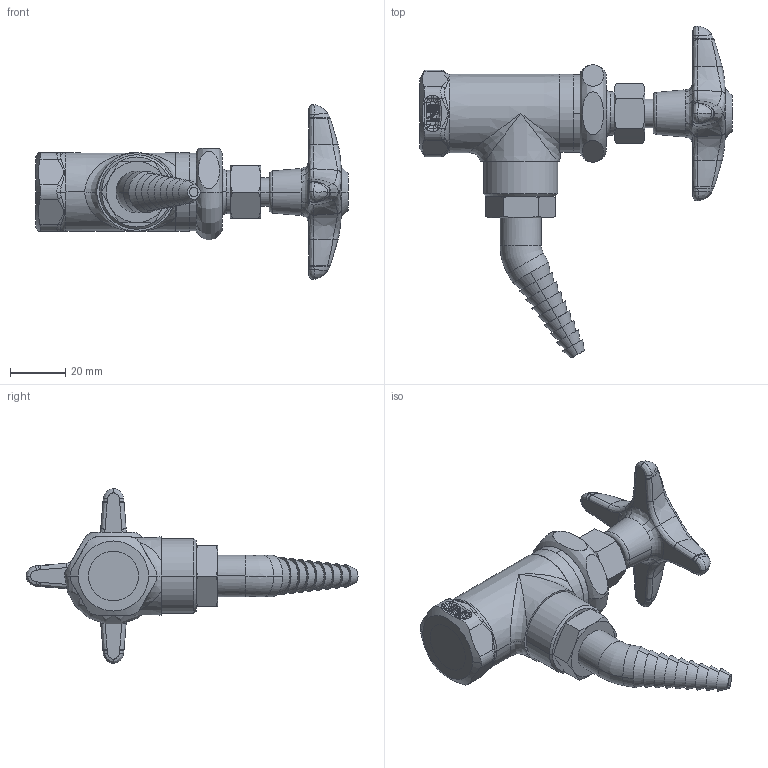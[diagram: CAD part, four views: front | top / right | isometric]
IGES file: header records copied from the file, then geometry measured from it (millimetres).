
Start section:  PTC IGES file: LGN3-A21B.igs
Global section: file name: LGN3-A21B.igs; native system: Creo Parametric by PTC Inc.; preprocessor: 2014500; author: usch_engrender; organization: Unknown; date: 20151217.172135; units: inch
Bounding box: 113.26 x 120.39 x 63.42 mm (x, y, z)
Volume: 59877.7 mm3; surface area: 27394.2 mm2
Topology: 1 solids, 4 shells, 575 faces, 1305 edges, 760 vertices
Faces by surface type: bspline 330, revolution 245
